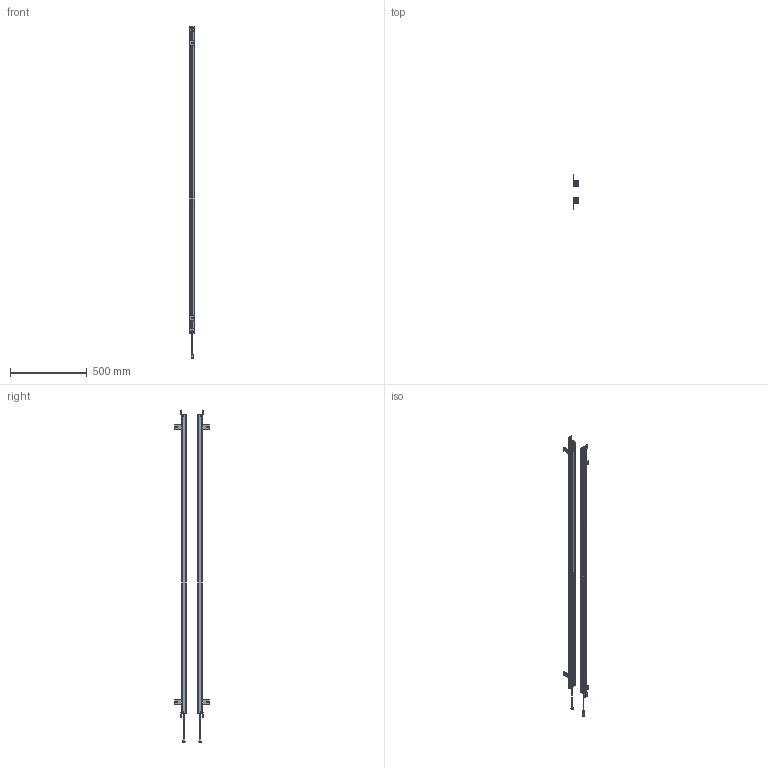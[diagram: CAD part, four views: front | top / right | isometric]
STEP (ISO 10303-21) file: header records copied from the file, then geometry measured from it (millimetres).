
FILE_DESCRIPTION(/* description */ (''),/* implementation_level */ '2;1');
FILE_NAME(/* name */ '4840（29x30).stp',/* time_stamp */ '2023-05-04T09:15:03+08:00',/* author */ (''),/* organization */ (''),/* preprocessor_version */ 'ST-DEVELOPER v16.7',/* originating_system */ 'SIEMENS PLM Software NX 12.0',/* authorisation */ '');
FILE_SCHEMA (('AUTOMOTIVE_DESIGN { 1 0 10303 214 3 1 1 1 }'));
Products named in the file (1): 2640（29x30__stp111_stp
Bounding box: 32.03 x 223.99 x 2161 mm (x, y, z)
Volume: 1183631 mm3; surface area: 1216224.3 mm2
Topology: 34 solids, 34 shells, 1610 faces, 4267 edges, 2771 vertices
Faces by surface type: plane 750, cylinder 648, bspline 88, sphere 36, cone 36, torus 32, extrusion 20
Full cylindrical faces by diameter (mm): 1.533 x6, 4.4 x4, 9 x2, 12.5 x2
Entity records: 56427 total; most frequent: CARTESIAN_POINT 16064, DIRECTION 8330, ORIENTED_EDGE 8324, EDGE_CURVE 4162, AXIS2_PLACEMENT_3D 2918, VERTEX_POINT 2696, VECTOR 2494, LINE 2474
